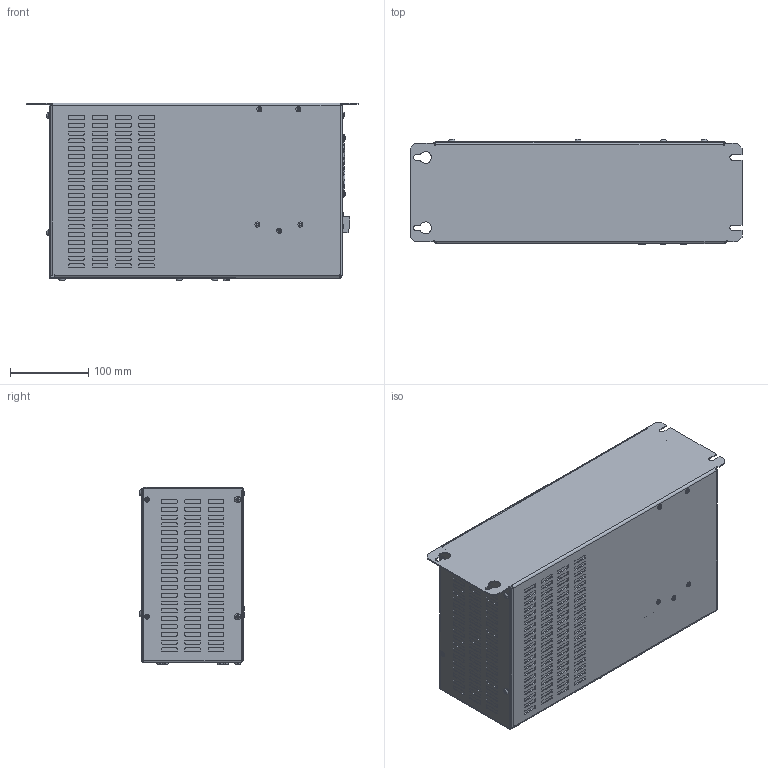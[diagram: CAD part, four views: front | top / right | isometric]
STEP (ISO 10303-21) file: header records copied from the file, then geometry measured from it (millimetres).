
FILE_DESCRIPTION(/* description */ (''),/* implementation_level */ '2;1');
FILE_NAME(/* name */ 'C:\Users\Erika.Jenzer\OneDrive - Schaffner EMV AG\CR_COs\FN5420 IP20 FRAME SIZE C.stp',/* time_stamp */ '2022-03-04T09:14:59+01:00',/* author */ ('erika.jenzer'),/* organization */ (''),/* preprocessor_version */ 'ST-DEVELOPER v18.1',/* originating_system */ 'Autodesk Inventor 2020',/* authorisation */ '');
FILE_SCHEMA (('AUTOMOTIVE_DESIGN { 1 0 10303 214 3 1 1 }'));
Products named in the file (1): FN5420 IP20 FRAME SIZE C
Bounding box: 425 x 134.65 x 227.76 mm (x, y, z)
Volume: 9993925.3 mm3; surface area: 571290.4 mm2
Topology: 2 solids, 40 shells, 3740 faces, 10023 edges, 6648 vertices
Faces by surface type: plane 2207, cylinder 1390, bspline 83, cone 44, torus 15, sphere 1
Full cylindrical faces by diameter (mm): 0.01 x2, 1 x6, 2 x9, 2.3 x4, 2.4 x2, 2.75 x1, 3 x1, 3.2 x10, 3.26 x1, 3.3 x2, 3.4 x1, 3.5 x9, 4 x22, 4.3 x4, 4.5 x5, 4.8 x16, 5 x12, 5.3 x2, 5.4 x6, 5.5 x4, 6 x1, 6.5 x9, 7 x3, 7.3 x2, 8 x18, 8.5 x6, 9 x5, 10 x3
Entity records: 130972 total; most frequent: CARTESIAN_POINT 31243, ORIENTED_EDGE 20078, DIRECTION 20043, EDGE_CURVE 10039, AXIS2_PLACEMENT_3D 6785, VERTEX_POINT 6664, LINE 6473, VECTOR 6473
